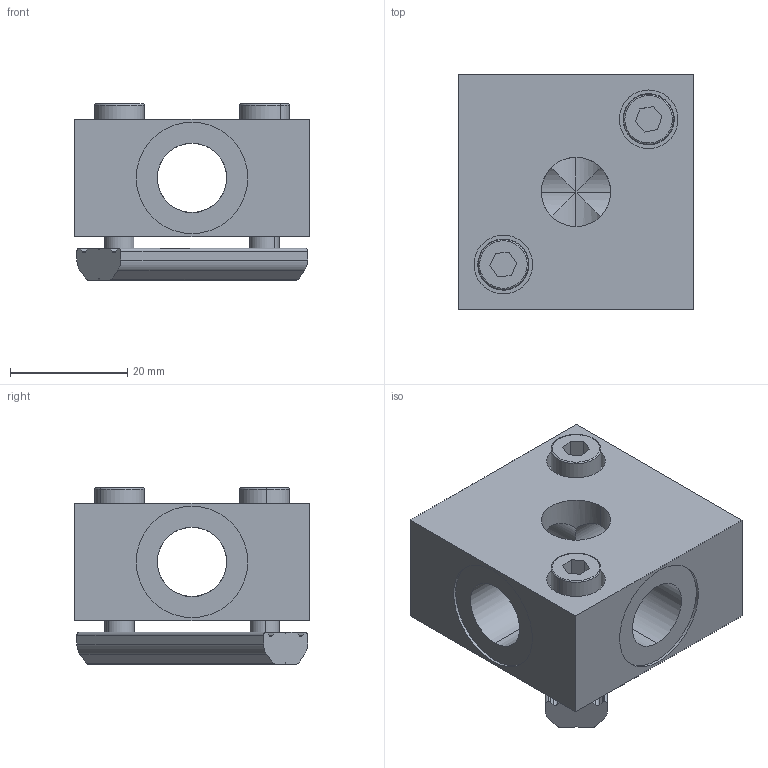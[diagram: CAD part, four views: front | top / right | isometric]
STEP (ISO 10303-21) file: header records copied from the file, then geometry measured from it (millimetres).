
FILE_DESCRIPTION (( 'STEP AP214' ), '1' );
FILE_NAME ('SMB-A5G14T.STEP', '2023-01-06T07:58:39', ( 'Windows User' ), ( 'P R C' ), 'SwSTEP 2.0', 'SolidWorks 2018', '' );
FILE_SCHEMA (( 'AUTOMOTIVE_DESIGN' ));
Length unit declared in the file: millimetre
Products named in the file (1): SMB-A5G14T
Bounding box: 40 x 40 x 30 mm (x, y, z)
Volume: 25816.6 mm3; surface area: 12144.3 mm2
Topology: 6 solids, 6 shells, 518 faces, 1482 edges, 975 vertices
Faces by surface type: plane 446, cylinder 64, cone 4, bspline 4
Entity records: 23137 total; most frequent: CARTESIAN_POINT 3460, ORIENTED_EDGE 2964, DIRECTION 2950, EDGE_CURVE 1482, AXIS2_PLACEMENT_3D 999, VERTEX_POINT 975, LINE 952, VECTOR 952
